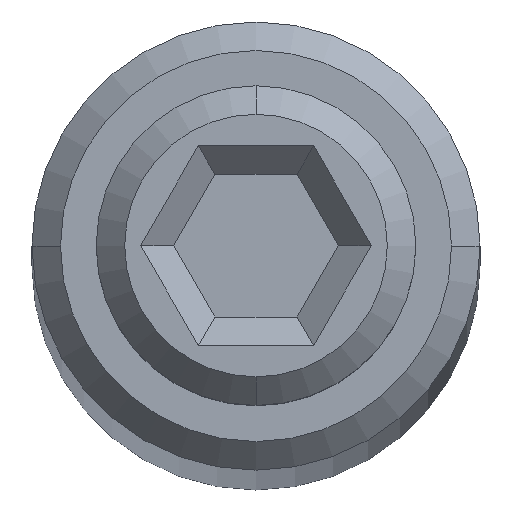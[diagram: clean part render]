
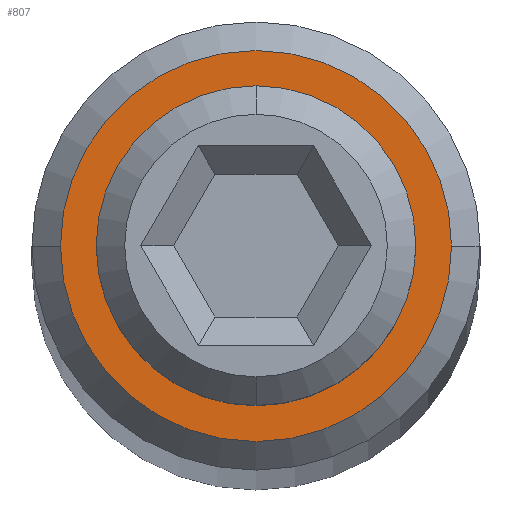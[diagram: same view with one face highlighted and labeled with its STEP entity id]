
A CAD part, top view. The second image highlights one B-rep face of the part: STEP entity #807.
In plain terms, the highlighted planar face has unit normal (0, 0, 1).
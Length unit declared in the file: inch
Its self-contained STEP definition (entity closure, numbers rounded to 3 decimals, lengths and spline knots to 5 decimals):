
#46 = DIRECTION ( 'NONE',  ( 0., 0., 1. ) ) ;
#98 = VERTEX_POINT ( 'NONE', #1478 ) ;
#108 = FACE_BOUND ( 'NONE', #1311, .T. ) ;
#120 = AXIS2_PLACEMENT_3D ( 'NONE', #699, #1473, #1164 ) ;
#148 = PLANE ( 'NONE',  #987 ) ;
#178 = ORIENTED_EDGE ( 'NONE', *, *, #407, .T. ) ;
#179 = DIRECTION ( 'NONE',  ( 0., 0., 1. ) ) ;
#228 = CIRCLE ( 'NONE', #120, 0.0685 ) ;
#241 = CARTESIAN_POINT ( 'NONE',  ( 0., 0., 2. ) ) ;
#283 = DIRECTION ( 'NONE',  ( 0., 0., 1. ) ) ;
#372 = EDGE_CURVE ( 'NONE', #581, #98, #1481, .T. ) ;
#384 = DIRECTION ( 'NONE',  ( 1., 0., 0. ) ) ;
#407 = EDGE_CURVE ( 'NONE', #1698, #1213, #228, .T. ) ;
#465 = CARTESIAN_POINT ( 'NONE',  ( -0.0685, 0., 2. ) ) ;
#550 = CARTESIAN_POINT ( 'NONE',  ( 0.056, 0., 2. ) ) ;
#581 = VERTEX_POINT ( 'NONE', #550 ) ;
#686 = EDGE_LOOP ( 'NONE', ( #1218, #178 ) ) ;
#688 = AXIS2_PLACEMENT_3D ( 'NONE', #984, #179, #1129 ) ;
#699 = CARTESIAN_POINT ( 'NONE',  ( 0., 0., 2. ) ) ;
#790 = FACE_OUTER_BOUND ( 'NONE', #686, .T. ) ;
#807 = ADVANCED_FACE ( 'NONE', ( #108, #790 ), #148, .T. ) ;
#846 = CARTESIAN_POINT ( 'NONE',  ( 0.0685, 0., 2. ) ) ;
#851 = CARTESIAN_POINT ( 'NONE',  ( 0., 0., 2. ) ) ;
#891 = EDGE_CURVE ( 'NONE', #98, #581, #1012, .T. ) ;
#977 = DIRECTION ( 'NONE',  ( 1., 0., 0. ) ) ;
#984 = CARTESIAN_POINT ( 'NONE',  ( 0., 0., 2. ) ) ;
#987 = AXIS2_PLACEMENT_3D ( 'NONE', #1603, #283, #1216 ) ;
#993 = EDGE_CURVE ( 'NONE', #1213, #1698, #1046, .T. ) ;
#1012 = CIRCLE ( 'NONE', #1594, 0.056 ) ;
#1046 = CIRCLE ( 'NONE', #688, 0.0685 ) ;
#1129 = DIRECTION ( 'NONE',  ( 1., 0., 0. ) ) ;
#1160 = ORIENTED_EDGE ( 'NONE', *, *, #891, .F. ) ;
#1164 = DIRECTION ( 'NONE',  ( 1., 0., 0. ) ) ;
#1183 = DIRECTION ( 'NONE',  ( 0., 0., 1. ) ) ;
#1213 = VERTEX_POINT ( 'NONE', #465 ) ;
#1216 = DIRECTION ( 'NONE',  ( 1., 0., 0. ) ) ;
#1218 = ORIENTED_EDGE ( 'NONE', *, *, #993, .T. ) ;
#1311 = EDGE_LOOP ( 'NONE', ( #1654, #1160 ) ) ;
#1319 = AXIS2_PLACEMENT_3D ( 'NONE', #241, #1183, #384 ) ;
#1473 = DIRECTION ( 'NONE',  ( 0., 0., 1. ) ) ;
#1478 = CARTESIAN_POINT ( 'NONE',  ( -0.056, 0., 2. ) ) ;
#1481 = CIRCLE ( 'NONE', #1319, 0.056 ) ;
#1594 = AXIS2_PLACEMENT_3D ( 'NONE', #851, #46, #977 ) ;
#1603 = CARTESIAN_POINT ( 'NONE',  ( 0., 0., 2. ) ) ;
#1654 = ORIENTED_EDGE ( 'NONE', *, *, #372, .F. ) ;
#1698 = VERTEX_POINT ( 'NONE', #846 ) ;
